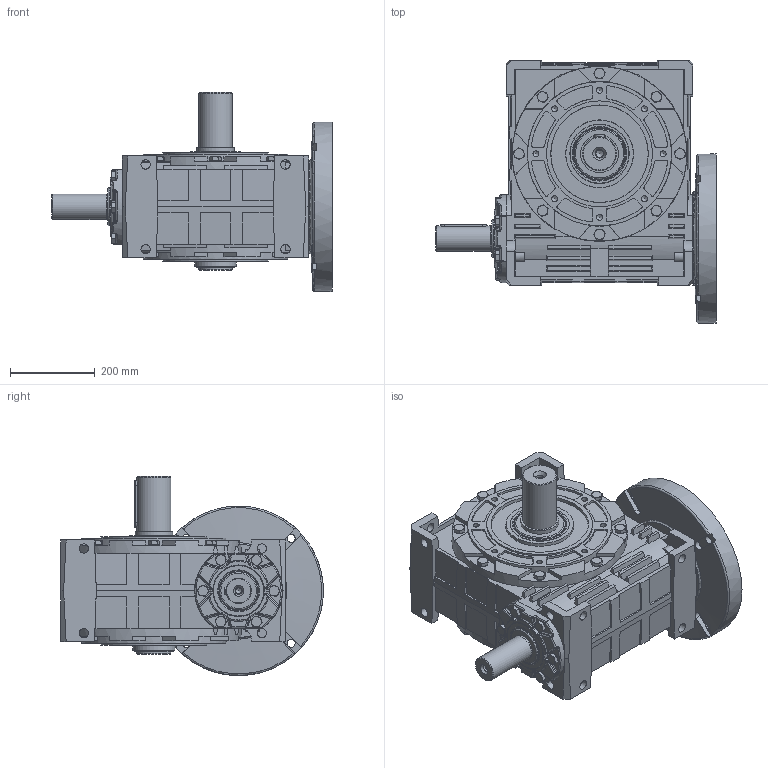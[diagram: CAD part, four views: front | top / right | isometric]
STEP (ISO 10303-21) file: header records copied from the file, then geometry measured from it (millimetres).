
FILE_DESCRIPTION (( 'STEP AP203' ), '1' );
FILE_NAME ('MR-200_200B5+WBS_WJ_2_3D.STEP', '2018-11-20T09:13:14', ( 'Biuro' ), ( 'Microsoft' ), 'SwSTEP 2.0', 'SolidWorks 2013', '' );
FILE_SCHEMA (( 'CONFIG_CONTROL_DESIGN' ));
Length unit declared in the file: millimetre
Products named in the file (1): MR-200_200B5+WBS_WJ_2_3D
Bounding box: 661 x 620 x 470 mm (x, y, z)
Volume: 53124081.2 mm3; surface area: 1757025.6 mm2
Topology: 1 solids, 21 shells, 1519 faces, 3773 edges, 2356 vertices
Faces by surface type: plane 845, cone 294, cylinder 224, torus 67, bspline 61, sphere 28
Full cylindrical faces by diameter (mm): 3 x2, 14 x17, 16 x12, 17 x13, 17.5 x1, 19 x4, 21 x1, 22 x12, 24 x20, 55 x1, 59.4 x1, 60 x1, 70 x1, 76.5 x1, 79.5 x1, 80 x6, 80.3 x1, 89 x1, 89.95 x2, 90 x2, 99 x1, 110 x1, 120 x4, 140 x2, 220 x1, 250 x2, 292 x1, 300 x1, 400 x1
Entity records: 47613 total; most frequent: CARTESIAN_POINT 13538, ORIENTED_EDGE 6926, DIRECTION 6911, EDGE_CURVE 3463, AXIS2_PLACEMENT_3D 2578, VERTEX_POINT 2245, EDGE_LOOP 1848, LINE 1755
